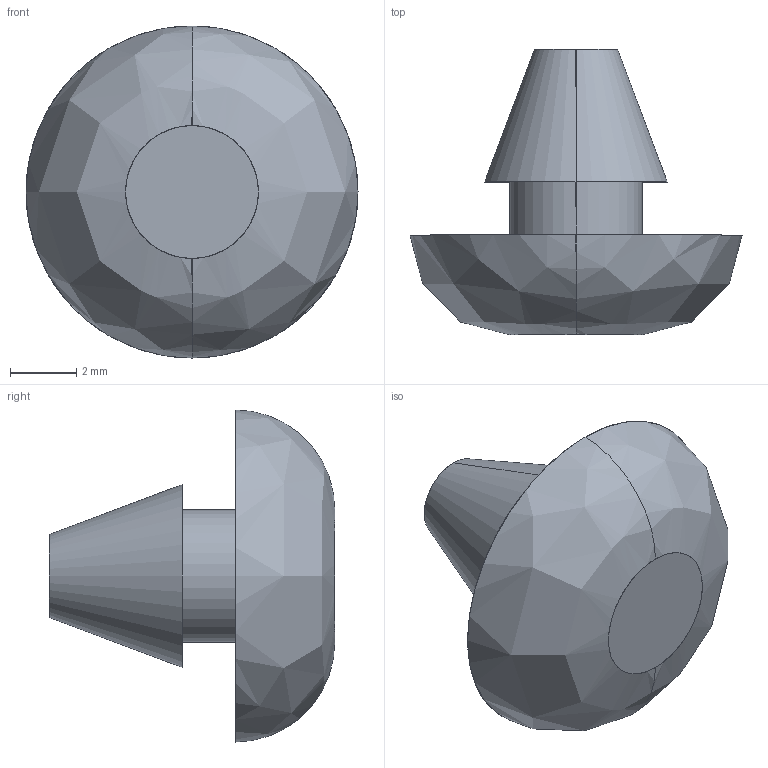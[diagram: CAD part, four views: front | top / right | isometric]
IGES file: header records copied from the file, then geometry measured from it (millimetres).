
Start section: SolidWorks IGES FILE using analytic representation for surfaces
Global section: file name: \\Ls-wvld1d\share\シブタニ\3D設計\ゴム\EBCS-7\EBCS-7.IGS; native system: SolidWorks 2003 by SolidWorks Corporation; preprocessor: Version 5.3; author: user; date: 130719.210116; units: millimetre
Bounding box: 10 x 8.6 x 10 mm (x, y, z)
Surface area: 315.9 mm2 (no closed solid volume)
Topology: 0 solids, 0 shells, 13 faces, 288 edges, 288 vertices
Faces by surface type: bspline 7, revolution 6
